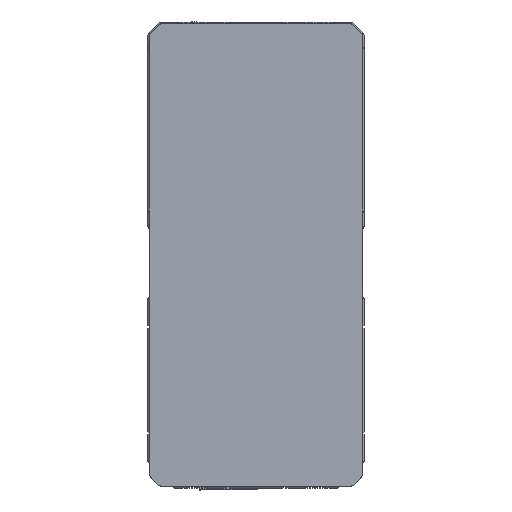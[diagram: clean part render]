
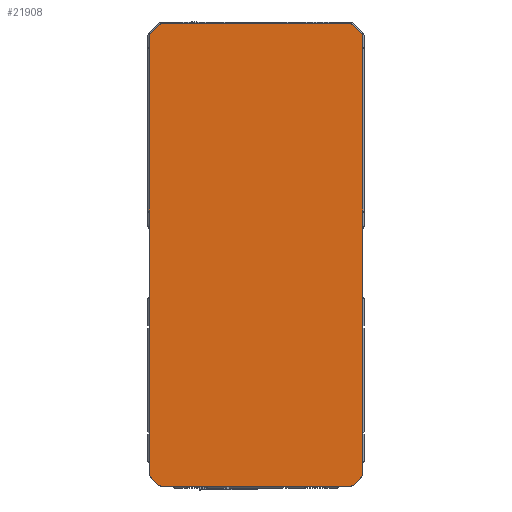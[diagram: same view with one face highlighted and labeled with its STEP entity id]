
A CAD part, top view. The second image highlights one B-rep face of the part: STEP entity #21908.
In plain terms, the highlighted planar face has unit normal (0, 0, 1).
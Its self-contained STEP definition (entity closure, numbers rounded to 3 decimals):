
#267 = LINE ( 'NONE', #31282, #15835 ) ;
#381 = LINE ( 'NONE', #13494, #32558 ) ;
#446 = EDGE_CURVE ( 'NONE', #2519, #37721, #2035, .T. ) ;
#736 = CIRCLE ( 'NONE', #24162, 1.5 ) ;
#865 = VECTOR ( 'NONE', #16440, 1000. ) ;
#939 = CARTESIAN_POINT ( 'NONE',  ( -32., 28.079, 244. ) ) ;
#1005 = CIRCLE ( 'NONE', #4133, 1.5 ) ;
#1178 = CARTESIAN_POINT ( 'NONE',  ( 32., 28.079, 244. ) ) ;
#1279 = VERTEX_POINT ( 'NONE', #1400 ) ;
#1400 = CARTESIAN_POINT ( 'NONE',  ( 29.139, 31.561, 244. ) ) ;
#1950 = ORIENTED_EDGE ( 'NONE', *, *, #31194, .T. ) ;
#2035 = CIRCLE ( 'NONE', #15124, 1.5 ) ;
#2117 = VECTOR ( 'NONE', #25027, 1000. ) ;
#2463 = CIRCLE ( 'NONE', #30668, 1.5 ) ;
#2519 = VERTEX_POINT ( 'NONE', #4897 ) ;
#2758 = DIRECTION ( 'NONE',  ( 1., 0., 0. ) ) ;
#3228 = EDGE_CURVE ( 'NONE', #4372, #11790, #17426, .T. ) ;
#3331 = VERTEX_POINT ( 'NONE', #16985 ) ;
#3726 = AXIS2_PLACEMENT_3D ( 'NONE', #19799, #10389, #4292 ) ;
#4133 = AXIS2_PLACEMENT_3D ( 'NONE', #18205, #39986, #21340 ) ;
#4292 = DIRECTION ( 'NONE',  ( -1., 0., 0. ) ) ;
#4372 = VERTEX_POINT ( 'NONE', #10502 ) ;
#4603 = EDGE_CURVE ( 'NONE', #11790, #3331, #736, .T. ) ;
#4897 = CARTESIAN_POINT ( 'NONE',  ( 31.561, -104.139, 244. ) ) ;
#5662 = EDGE_CURVE ( 'NONE', #37721, #30602, #36262, .T. ) ;
#5670 = VERTEX_POINT ( 'NONE', #34455 ) ;
#5775 = DIRECTION ( 'NONE',  ( 0., 0., 1. ) ) ;
#6163 = EDGE_CURVE ( 'NONE', #24626, #35862, #1005, .T. ) ;
#6339 = EDGE_CURVE ( 'NONE', #35650, #14259, #33655, .T. ) ;
#7485 = VERTEX_POINT ( 'NONE', #37358 ) ;
#7532 = AXIS2_PLACEMENT_3D ( 'NONE', #31875, #13204, #35038 ) ;
#7767 = ORIENTED_EDGE ( 'NONE', *, *, #6339, .T. ) ;
#8030 = ORIENTED_EDGE ( 'NONE', *, *, #15981, .T. ) ;
#8349 = CARTESIAN_POINT ( 'NONE',  ( 28.079, -105.5, 244. ) ) ;
#8414 = EDGE_CURVE ( 'NONE', #1279, #25103, #29085, .T. ) ;
#8811 = ORIENTED_EDGE ( 'NONE', *, *, #8414, .T. ) ;
#8888 = CARTESIAN_POINT ( 'NONE',  ( -30.5, -103.079, 244. ) ) ;
#9064 = CARTESIAN_POINT ( 'NONE',  ( -31.561, -104.139, 244. ) ) ;
#9165 = ORIENTED_EDGE ( 'NONE', *, *, #10121, .T. ) ;
#9247 = AXIS2_PLACEMENT_3D ( 'NONE', #24396, #5775, #27548 ) ;
#9615 = EDGE_CURVE ( 'NONE', #35862, #7485, #267, .T. ) ;
#9742 = LINE ( 'NONE', #21921, #33615 ) ;
#10121 = EDGE_CURVE ( 'NONE', #3331, #24626, #28510, .T. ) ;
#10385 = DIRECTION ( 'NONE',  ( -1., 0., 0. ) ) ;
#10389 = DIRECTION ( 'NONE',  ( 0., 0., -1. ) ) ;
#10502 = CARTESIAN_POINT ( 'NONE',  ( -32., 28.079, 244. ) ) ;
#11247 = ORIENTED_EDGE ( 'NONE', *, *, #30497, .T. ) ;
#11367 = DIRECTION ( 'NONE',  ( 0.707, 0.707, 0. ) ) ;
#11463 = DIRECTION ( 'NONE',  ( -1., 0., 0. ) ) ;
#11790 = VERTEX_POINT ( 'NONE', #29736 ) ;
#11919 = EDGE_LOOP ( 'NONE', ( #7767, #11247, #19654, #18476, #21288, #9165, #24121, #40149, #24235, #1950, #22334, #40215, #26075, #20899, #8811, #8030 ) ) ;
#11988 = DIRECTION ( 'NONE',  ( -1., 0., 0. ) ) ;
#12859 = DIRECTION ( 'NONE',  ( 0., 0., 1. ) ) ;
#12882 = VECTOR ( 'NONE', #21179, 1000. ) ;
#13204 = DIRECTION ( 'NONE',  ( 0., 0., 1. ) ) ;
#13300 = CIRCLE ( 'NONE', #9247, 1.5 ) ;
#13494 = CARTESIAN_POINT ( 'NONE',  ( -28.079, 32., 244. ) ) ;
#13574 = VERTEX_POINT ( 'NONE', #31237 ) ;
#13991 = EDGE_CURVE ( 'NONE', #7485, #5670, #2463, .T. ) ;
#14259 = VERTEX_POINT ( 'NONE', #34323 ) ;
#15124 = AXIS2_PLACEMENT_3D ( 'NONE', #16677, #38480, #19850 ) ;
#15775 = CARTESIAN_POINT ( 'NONE',  ( -29.139, -106.561, 244. ) ) ;
#15835 = VECTOR ( 'NONE', #28178, 1000. ) ;
#15981 = EDGE_CURVE ( 'NONE', #25103, #35650, #381, .T. ) ;
#16436 = CARTESIAN_POINT ( 'NONE',  ( -28.079, -107., 244. ) ) ;
#16440 = DIRECTION ( 'NONE',  ( 0., -1., 0. ) ) ;
#16677 = CARTESIAN_POINT ( 'NONE',  ( 30.5, -103.079, 244. ) ) ;
#16985 = CARTESIAN_POINT ( 'NONE',  ( -31.561, -104.139, 244. ) ) ;
#17426 = LINE ( 'NONE', #939, #865 ) ;
#18205 = CARTESIAN_POINT ( 'NONE',  ( -28.079, -105.5, 244. ) ) ;
#18476 = ORIENTED_EDGE ( 'NONE', *, *, #3228, .T. ) ;
#18777 = CARTESIAN_POINT ( 'NONE',  ( 32., 28.079, 244. ) ) ;
#19654 = ORIENTED_EDGE ( 'NONE', *, *, #38109, .T. ) ;
#19799 = CARTESIAN_POINT ( 'NONE',  ( -28.079, 30.5, 244. ) ) ;
#19850 = DIRECTION ( 'NONE',  ( 1., 0., 0. ) ) ;
#20899 = ORIENTED_EDGE ( 'NONE', *, *, #34003, .T. ) ;
#21161 = FACE_OUTER_BOUND ( 'NONE', #11919, .T. ) ;
#21179 = DIRECTION ( 'NONE',  ( 0.707, -0.707, 0. ) ) ;
#21288 = ORIENTED_EDGE ( 'NONE', *, *, #4603, .T. ) ;
#21340 = DIRECTION ( 'NONE',  ( 1., 0., 0. ) ) ;
#21423 = DIRECTION ( 'NONE',  ( 0., 0., 1. ) ) ;
#21538 = CARTESIAN_POINT ( 'NONE',  ( -28.079, 32., 244. ) ) ;
#21908 = ADVANCED_FACE ( 'NONE', ( #21161 ), #22915, .F. ) ;
#21921 = CARTESIAN_POINT ( 'NONE',  ( 29.139, 31.561, 244. ) ) ;
#22168 = EDGE_CURVE ( 'NONE', #30602, #22300, #13300, .T. ) ;
#22300 = VERTEX_POINT ( 'NONE', #34485 ) ;
#22334 = ORIENTED_EDGE ( 'NONE', *, *, #446, .T. ) ;
#22915 = PLANE ( 'NONE',  #3726 ) ;
#22957 = AXIS2_PLACEMENT_3D ( 'NONE', #40069, #21423, #2758 ) ;
#24121 = ORIENTED_EDGE ( 'NONE', *, *, #6163, .T. ) ;
#24162 = AXIS2_PLACEMENT_3D ( 'NONE', #8888, #30661, #11988 ) ;
#24235 = ORIENTED_EDGE ( 'NONE', *, *, #13991, .T. ) ;
#24396 = CARTESIAN_POINT ( 'NONE',  ( 30.5, 28.079, 244. ) ) ;
#24626 = VERTEX_POINT ( 'NONE', #15775 ) ;
#25027 = DIRECTION ( 'NONE',  ( 0., 1., 0. ) ) ;
#25103 = VERTEX_POINT ( 'NONE', #27512 ) ;
#25411 = DIRECTION ( 'NONE',  ( -0.707, -0.707, 0. ) ) ;
#25550 = LINE ( 'NONE', #37956, #30952 ) ;
#26075 = ORIENTED_EDGE ( 'NONE', *, *, #22168, .T. ) ;
#26888 = CARTESIAN_POINT ( 'NONE',  ( 29.139, -106.561, 244. ) ) ;
#27512 = CARTESIAN_POINT ( 'NONE',  ( 28.079, 32., 244. ) ) ;
#27548 = DIRECTION ( 'NONE',  ( -1., 0., 0. ) ) ;
#28178 = DIRECTION ( 'NONE',  ( 1., 0., 0. ) ) ;
#28510 = LINE ( 'NONE', #9064, #12882 ) ;
#29085 = CIRCLE ( 'NONE', #22957, 1.5 ) ;
#29441 = LINE ( 'NONE', #26888, #35775 ) ;
#29736 = CARTESIAN_POINT ( 'NONE',  ( -32., -103.079, 244. ) ) ;
#30133 = DIRECTION ( 'NONE',  ( 0., 0., 1. ) ) ;
#30497 = EDGE_CURVE ( 'NONE', #14259, #13574, #25550, .T. ) ;
#30602 = VERTEX_POINT ( 'NONE', #1178 ) ;
#30661 = DIRECTION ( 'NONE',  ( 0., 0., 1. ) ) ;
#30668 = AXIS2_PLACEMENT_3D ( 'NONE', #8349, #30133, #11463 ) ;
#30952 = VECTOR ( 'NONE', #25411, 1000. ) ;
#31194 = EDGE_CURVE ( 'NONE', #5670, #2519, #29441, .T. ) ;
#31237 = CARTESIAN_POINT ( 'NONE',  ( -31.561, 29.139, 244. ) ) ;
#31265 = AXIS2_PLACEMENT_3D ( 'NONE', #31525, #12859, #34674 ) ;
#31282 = CARTESIAN_POINT ( 'NONE',  ( -28.079, -107., 244. ) ) ;
#31317 = DIRECTION ( 'NONE',  ( -0.707, 0.707, 0. ) ) ;
#31525 = CARTESIAN_POINT ( 'NONE',  ( -28.079, 30.5, 244. ) ) ;
#31875 = CARTESIAN_POINT ( 'NONE',  ( -30.5, 28.079, 244. ) ) ;
#32558 = VECTOR ( 'NONE', #10385, 1000. ) ;
#33424 = CIRCLE ( 'NONE', #7532, 1.5 ) ;
#33615 = VECTOR ( 'NONE', #31317, 1000. ) ;
#33655 = CIRCLE ( 'NONE', #31265, 1.5 ) ;
#34003 = EDGE_CURVE ( 'NONE', #22300, #1279, #9742, .T. ) ;
#34323 = CARTESIAN_POINT ( 'NONE',  ( -29.139, 31.561, 244. ) ) ;
#34455 = CARTESIAN_POINT ( 'NONE',  ( 29.139, -106.561, 244. ) ) ;
#34485 = CARTESIAN_POINT ( 'NONE',  ( 31.561, 29.139, 244. ) ) ;
#34674 = DIRECTION ( 'NONE',  ( -1., 0., 0. ) ) ;
#35038 = DIRECTION ( 'NONE',  ( 1., 0., 0. ) ) ;
#35650 = VERTEX_POINT ( 'NONE', #21538 ) ;
#35775 = VECTOR ( 'NONE', #11367, 1000. ) ;
#35862 = VERTEX_POINT ( 'NONE', #16436 ) ;
#36262 = LINE ( 'NONE', #18777, #2117 ) ;
#37358 = CARTESIAN_POINT ( 'NONE',  ( 28.079, -107., 244. ) ) ;
#37721 = VERTEX_POINT ( 'NONE', #39003 ) ;
#37956 = CARTESIAN_POINT ( 'NONE',  ( -31.561, 29.139, 244. ) ) ;
#38109 = EDGE_CURVE ( 'NONE', #13574, #4372, #33424, .T. ) ;
#38480 = DIRECTION ( 'NONE',  ( 0., 0., 1. ) ) ;
#39003 = CARTESIAN_POINT ( 'NONE',  ( 32., -103.079, 244. ) ) ;
#39986 = DIRECTION ( 'NONE',  ( 0., 0., 1. ) ) ;
#40069 = CARTESIAN_POINT ( 'NONE',  ( 28.079, 30.5, 244. ) ) ;
#40149 = ORIENTED_EDGE ( 'NONE', *, *, #9615, .T. ) ;
#40215 = ORIENTED_EDGE ( 'NONE', *, *, #5662, .T. ) ;
